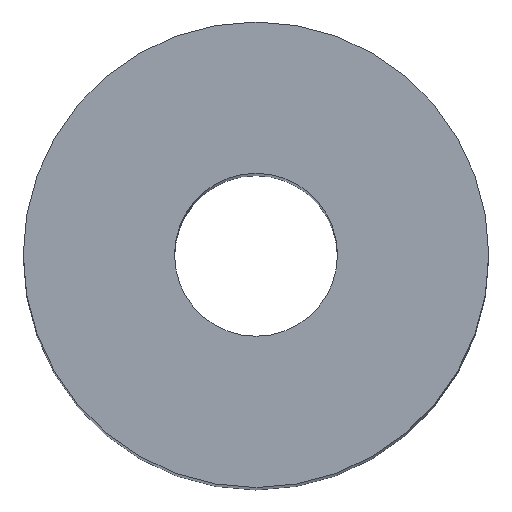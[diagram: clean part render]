
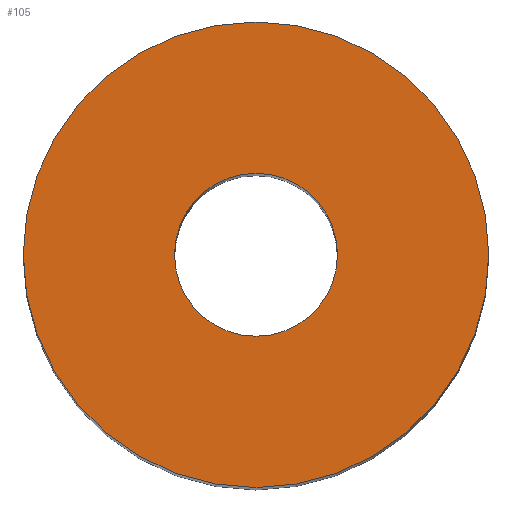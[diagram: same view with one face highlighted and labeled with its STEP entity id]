
A CAD part, top view. The second image highlights one B-rep face of the part: STEP entity #105.
In plain terms, the highlighted planar face has unit normal (0, 0, 1).
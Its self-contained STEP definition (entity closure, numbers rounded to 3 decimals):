
#21 = EDGE_CURVE('',#22,#22,#24,.T.);
#22 = VERTEX_POINT('',#23);
#23 = CARTESIAN_POINT('',(5.,0.,30.));
#24 = SURFACE_CURVE('',#25,(#30,#42),.PCURVE_S1.);
#25 = CIRCLE('',#26,5.);
#26 = AXIS2_PLACEMENT_3D('',#27,#28,#29);
#27 = CARTESIAN_POINT('',(0.,0.,30.));
#28 = DIRECTION('',(0.,0.,1.));
#29 = DIRECTION('',(1.,0.,-0.));
#30 = PCURVE('',#31,#36);
#31 = CYLINDRICAL_SURFACE('',#32,5.);
#32 = AXIS2_PLACEMENT_3D('',#33,#34,#35);
#33 = CARTESIAN_POINT('',(0.,0.,0.));
#34 = DIRECTION('',(0.,0.,1.));
#35 = DIRECTION('',(1.,0.,-0.));
#36 = DEFINITIONAL_REPRESENTATION('',(#37),#41);
#37 = LINE('',#38,#39);
#38 = CARTESIAN_POINT('',(0.,30.));
#39 = VECTOR('',#40,1.);
#40 = DIRECTION('',(1.,0.));
#41 = ( GEOMETRIC_REPRESENTATION_CONTEXT(2) 
PARAMETRIC_REPRESENTATION_CONTEXT() REPRESENTATION_CONTEXT('2D SPACE',''
  ) );
#42 = PCURVE('',#43,#48);
#43 = PLANE('',#44);
#44 = AXIS2_PLACEMENT_3D('',#45,#46,#47);
#45 = CARTESIAN_POINT('',(0.,0.,30.));
#46 = DIRECTION('',(0.,0.,1.));
#47 = DIRECTION('',(1.,0.,-0.));
#48 = DEFINITIONAL_REPRESENTATION('',(#49),#53);
#49 = CIRCLE('',#50,5.);
#50 = AXIS2_PLACEMENT_2D('',#51,#52);
#51 = CARTESIAN_POINT('',(0.,0.));
#52 = DIRECTION('',(1.,0.));
#53 = ( GEOMETRIC_REPRESENTATION_CONTEXT(2) 
PARAMETRIC_REPRESENTATION_CONTEXT() REPRESENTATION_CONTEXT('2D SPACE',''
  ) );
#105 = ADVANCED_FACE('',(#106,#109),#43,.T.);
#106 = FACE_BOUND('',#107,.T.);
#107 = EDGE_LOOP('',(#108));
#108 = ORIENTED_EDGE('',*,*,#21,.T.);
#109 = FACE_BOUND('',#110,.T.);
#110 = EDGE_LOOP('',(#111));
#111 = ORIENTED_EDGE('',*,*,#112,.F.);
#112 = EDGE_CURVE('',#113,#113,#115,.T.);
#113 = VERTEX_POINT('',#114);
#114 = CARTESIAN_POINT('',(1.75,0.,30.));
#115 = SURFACE_CURVE('',#116,(#121,#128),.PCURVE_S1.);
#116 = CIRCLE('',#117,1.75);
#117 = AXIS2_PLACEMENT_3D('',#118,#119,#120);
#118 = CARTESIAN_POINT('',(0.,0.,30.));
#119 = DIRECTION('',(0.,0.,1.));
#120 = DIRECTION('',(1.,0.,-0.));
#121 = PCURVE('',#43,#122);
#122 = DEFINITIONAL_REPRESENTATION('',(#123),#127);
#123 = CIRCLE('',#124,1.75);
#124 = AXIS2_PLACEMENT_2D('',#125,#126);
#125 = CARTESIAN_POINT('',(0.,0.));
#126 = DIRECTION('',(1.,0.));
#127 = ( GEOMETRIC_REPRESENTATION_CONTEXT(2) 
PARAMETRIC_REPRESENTATION_CONTEXT() REPRESENTATION_CONTEXT('2D SPACE',''
  ) );
#128 = PCURVE('',#129,#134);
#129 = CYLINDRICAL_SURFACE('',#130,1.75);
#130 = AXIS2_PLACEMENT_3D('',#131,#132,#133);
#131 = CARTESIAN_POINT('',(0.,0.,-1.));
#132 = DIRECTION('',(0.,0.,1.));
#133 = DIRECTION('',(1.,0.,-0.));
#134 = DEFINITIONAL_REPRESENTATION('',(#135),#139);
#135 = LINE('',#136,#137);
#136 = CARTESIAN_POINT('',(0.,31.));
#137 = VECTOR('',#138,1.);
#138 = DIRECTION('',(1.,0.));
#139 = ( GEOMETRIC_REPRESENTATION_CONTEXT(2) 
PARAMETRIC_REPRESENTATION_CONTEXT() REPRESENTATION_CONTEXT('2D SPACE',''
  ) );
